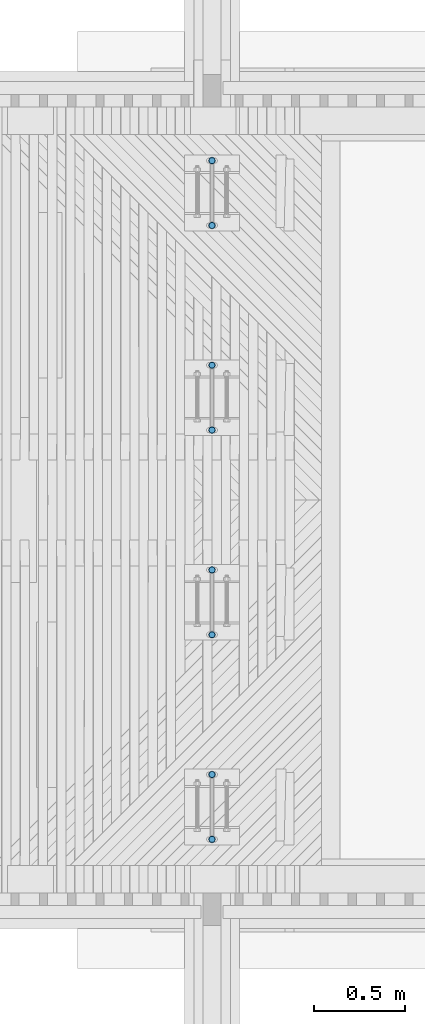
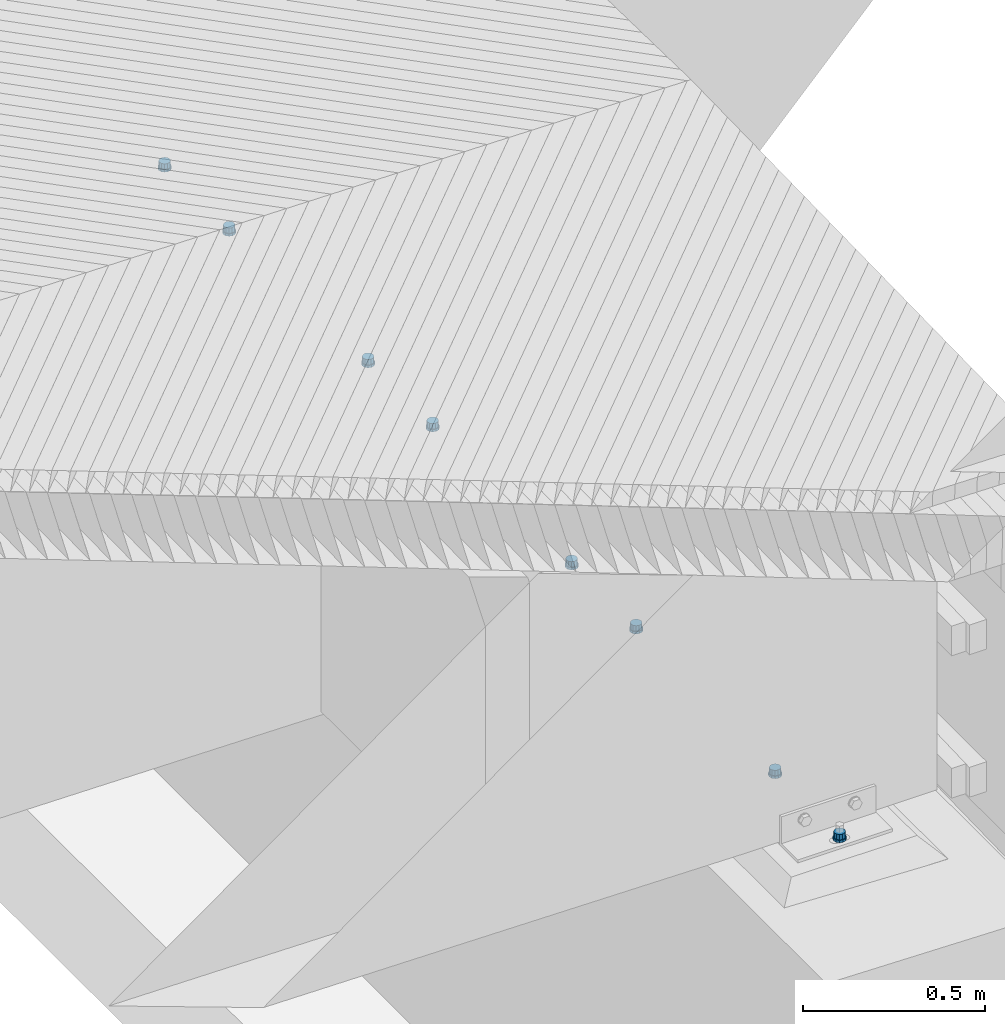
# One storey, part 15 of 53: 16 columns.
"""IFC2X3 building model written with IfcOpenShell, lengths in millimetres."""

import ifcopenshell
import ifcopenshell.guid

model = None  # the IFC model being written
_history = None  # IfcOwnerHistory: only IFC2X3 demands one
_inside = {}  # id of a spatial element -> (the spatial element, [elements in it])
_under = {}  # id of a project, library or spatial element -> (it, [spatial elements below it])
_declared = {}  # id of a project -> (the project, [libraries it declares])
_typed = {}  # id of a type object -> (the type object, [elements of that type])
_made_of = {}  # id of a material, layer set ... -> (it, [elements and type objects made of it])


def new_model(schema):
    """Start an empty IFC model of exactly this schema.

    Asked for "IFC4X3", IfcOpenShell would pick the latest addendum, in which some entities
    have other attributes; the version numbers below select the first issue.
    IFC2X3 requires an IfcOwnerHistory on every rooted entity: one is made here for all.
    """
    global model, _history
    if schema == "IFC4X3":
        model = ifcopenshell.file(schema_version=(4, 3, 0, 0))
    else:
        model = ifcopenshell.file(schema=schema)
    _inside.clear()
    _under.clear()
    _declared.clear()
    _typed.clear()
    _made_of.clear()
    _history = None
    if model.schema == "IFC2X3":
        org = make("IfcOrganization", Name="unknown")
        user = make(
            "IfcPersonAndOrganization",
            ThePerson=make("IfcPerson", FamilyName="unknown"),
            TheOrganization=org,
        )
        app = make(
            "IfcApplication",
            ApplicationDeveloper=org,
            Version="unknown",
            ApplicationFullName="unknown",
            ApplicationIdentifier="unknown",
        )
        _history = make(
            "IfcOwnerHistory",
            OwningUser=user,
            OwningApplication=app,
            ChangeAction="ADDED",
            CreationDate=0,
        )
    return model


def make(cls, **values):
    """One entity of the class cls with the attributes given. An attribute that is None is left unset."""
    return model.create_entity(
        cls, **{name: value for name, value in values.items() if value is not None}
    )


def rooted(cls, **values):
    """An entity with a GlobalId (a new one), such as an element, a storey or a relation."""
    return make(cls, GlobalId=ifcopenshell.guid.new(), OwnerHistory=_history, **values)


def si_unit(unit_type, name, prefix=None):
    """IfcSIUnit, for example si_unit("LENGTHUNIT", "METRE", prefix="MILLI")."""
    return make("IfcSIUnit", UnitType=unit_type, Prefix=prefix, Name=name)


def assignment(units):
    """IfcUnitAssignment: the units of a project."""
    return None if units is None else make("IfcUnitAssignment", Units=units)


def point(xyz):
    """IfcCartesianPoint."""
    return None if xyz is None else make("IfcCartesianPoint", Coordinates=xyz)


def direction(xyz):
    """IfcDirection."""
    return None if xyz is None else make("IfcDirection", DirectionRatios=xyz)


def frame(location, z_axis=None, x_axis=None):
    """IfcAxis2Placement3D, a coordinate frame: its origin and axes. An axis left out is left unset."""
    return make(
        "IfcAxis2Placement3D",
        Location=point(location),
        Axis=direction(z_axis),
        RefDirection=direction(x_axis),
    )


def origin_with_axes():
    """The frame at (0, 0, 0) with the z axis (0, 0, 1) and the x axis (1, 0, 0) written out."""
    return frame((0.0, 0.0, 0.0), z_axis=(0.0, 0.0, 1.0), x_axis=(1.0, 0.0, 0.0))


def place(relative_to, where):
    """IfcLocalPlacement: puts the frame where relative to a parent placement (None: the world)."""
    return make(
        "IfcLocalPlacement", PlacementRelTo=relative_to, RelativePlacement=where
    )


def context(
    kind, dimensions, precision=None, world=None, true_north=None, identifier=None
):
    """IfcGeometricRepresentationContext, for example the 3D "Model" context."""
    return make(
        "IfcGeometricRepresentationContext",
        ContextIdentifier=identifier,
        ContextType=kind,
        CoordinateSpaceDimension=dimensions,
        Precision=precision,
        WorldCoordinateSystem=world,
        TrueNorth=true_north,
    )


def subcontext(parent, identifier, kind, view, scale=None):
    """IfcGeometricRepresentationSubContext, for example "Body" below "Model"."""
    return make(
        "IfcGeometricRepresentationSubContext",
        ContextIdentifier=identifier,
        ContextType=kind,
        ParentContext=parent,
        TargetScale=scale,
        TargetView=view,
    )


def project(units=None, contexts=None):
    """IfcProject with its units and contexts."""
    return rooted(
        "IfcProject",
        Name="project",
        RepresentationContexts=contexts,
        UnitsInContext=assignment(units),
    )


def spatial(cls, under=None, at=None, **own):
    """A site, building, storey or space (cls), placed at a placement, below another one or the project."""
    s = rooted(cls, ObjectPlacement=at, **own)
    if under is not None:
        _under.setdefault(under.id(), (under, []))[1].append(s)
    return s


def faces_of(points, faces, orient=None, outer=None):
    """IfcFace entities. A face is a list of loops; a loop is a list of indices into points, from 0.

    orient and outer hold one flag for each loop. By default every Orientation is true, the
    first loop of a face is its IfcFaceOuterBound and the others are IfcFaceBound.
    """
    made = []
    for i, loops in enumerate(faces):
        bounds = []
        for j, loop in enumerate(loops):
            is_outer = j == 0 if outer is None else outer[i][j]
            bounds.append(
                make(
                    "IfcFaceOuterBound" if is_outer else "IfcFaceBound",
                    Bound=make("IfcPolyLoop", Polygon=[points[k] for k in loop]),
                    Orientation=True if orient is None else orient[i][j],
                )
            )
        made.append(make("IfcFace", Bounds=bounds))
    return made


def faceted_brep(points, faces, orient=None, outer=None, voids=None):
    """IfcFacetedBrep: a solid bounded by flat faces; with voids (closed shells), ...WithVoids."""
    shared = [point(p) for p in points]
    hull = make("IfcClosedShell", CfsFaces=faces_of(shared, faces, orient, outer))
    if voids is None:
        return make("IfcFacetedBrep", Outer=hull)
    return make(
        "IfcFacetedBrepWithVoids",
        Outer=hull,
        Voids=[
            make(cls, CfsFaces=faces_of(shared, fs, o, b)) for cls, fs, o, b in voids
        ],
    )


def shape(context_of_items, identifier, shape_type, items):
    """IfcShapeRepresentation: the items that make up one representation, for example the "Body"."""
    return make(
        "IfcShapeRepresentation",
        ContextOfItems=context_of_items,
        RepresentationIdentifier=identifier,
        RepresentationType=shape_type,
        Items=items,
    )


def material(Name=None, Category=None):
    """IfcMaterial."""
    return make("IfcMaterial", Name=Name, Category=Category)


def made_of(thing, what):
    """Note that an element or type object is made of a material, layer set ...; save() writes the relation."""
    if what is not None:
        _made_of.setdefault(what.id(), (what, []))[1].append(thing)
    return thing


def type_object(cls, material=None, **own):
    """A type object (cls), such as IfcWallType, which elements share."""
    return made_of(rooted(cls, **own), material)


def element(
    cls,
    number,
    at=None,
    inside=None,
    cuts=None,
    type_object=None,
    material=None,
    context=None,
    identifier="Body",
    shape_type=None,
    held_by="IfcProductDefinitionShape",
    body=None,
    shapes=None,
    **own,
):
    """One element of the class cls, such as IfcWall. Its Tag is "e" and its number.

    at: its placement. inside: the storey or other place that contains it. cuts: it is an
    opening in that element (IfcRelVoidsElement). A single representation is given by context,
    identifier, shape_type and body (its items); several are given by shapes. held_by: the class
    of the entity that holds the representations. save() writes the other relations.
    """
    e = rooted(cls, Tag="e%d" % number, ObjectPlacement=at, **own)
    if body is not None:
        shapes = [shape(context, identifier, shape_type, body)]
    if shapes is not None:
        e.Representation = make(held_by, Representations=shapes)
    if inside is not None:
        _inside.setdefault(inside.id(), (inside, []))[1].append(e)
    if cuts is not None:
        rooted(
            "IfcRelVoidsElement", RelatingBuildingElement=cuts, RelatedOpeningElement=e
        )
    if type_object is not None:
        _typed.setdefault(type_object.id(), (type_object, []))[1].append(e)
    return made_of(e, material)


def aggregate(whole, parts):
    """IfcRelAggregates: a whole, such as a stair, and the parts it consists of."""
    return rooted("IfcRelAggregates", RelatingObject=whole, RelatedObjects=parts)


def save(model, path):
    """Write the relations noted so far, then the file.

    IfcRelAggregates (storeys below a building ...), IfcRelContainedInSpatialStructure (elements
    in a storey), IfcRelDefinesByType, IfcRelAssociatesMaterial and IfcRelDeclares: one each for
    every whole, place, type object, material and project.
    """
    for whole, parts in _under.values():
        aggregate(whole, parts)
    for where, things in _inside.values():
        rooted(
            "IfcRelContainedInSpatialStructure",
            RelatedElements=things,
            RelatingStructure=where,
        )
    for kind, things in _typed.values():
        rooted("IfcRelDefinesByType", RelatedObjects=things, RelatingType=kind)
    for what, things in _made_of.values():
        rooted("IfcRelAssociatesMaterial", RelatedObjects=things, RelatingMaterial=what)
    for by, libraries in _declared.values():
        rooted("IfcRelDeclares", RelatingContext=by, RelatedDefinitions=libraries)
    model.write(path)


model = new_model("IFC2X3")

# Units and contexts
model_context = context("Model", 3, precision=1e-05, world=origin_with_axes())
body_context = subcontext(model_context, "Body", "Model", "MODEL_VIEW")
ifc_project = project(units=[si_unit("LENGTHUNIT", "METRE", prefix="MILLI"), si_unit("AREAUNIT", "SQUARE_METRE"), si_unit("VOLUMEUNIT", "CUBIC_METRE"), si_unit("MASSUNIT", "GRAM", prefix="KILO"), si_unit("TIMEUNIT", "SECOND"), si_unit("PLANEANGLEUNIT", "RADIAN"), si_unit("SOLIDANGLEUNIT", "STERADIAN"), si_unit("THERMODYNAMICTEMPERATUREUNIT", "DEGREE_CELSIUS"), si_unit("LUMINOUSINTENSITYUNIT", "LUMEN")], contexts=[model_context])

# Site, building, storey
site_placement = place(None, origin_with_axes())
site = spatial("IfcSite", under=ifc_project, at=site_placement, Name="Undefined", CompositionType="ELEMENT")
building_placement = place(site_placement, origin_with_axes())
building = spatial("IfcBuilding", under=site, at=building_placement, Name="Undefined", CompositionType="ELEMENT")
storey_placement = place(building_placement, origin_with_axes())
storey = spatial("IfcBuildingStorey", under=building, at=storey_placement, Name="Undefined", CompositionType="ELEMENT", Elevation=0.0)

# Columns
ifc_material = material(Name="STEEL/Steel_Undefined")
column_type_1 = type_object("IfcColumnType", Name="D38", PredefinedType="NOTDEFINED")
for number, where, z_axis, x_axis, name in (
    (1, (16000.0, 42747.5000000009, 2007.32999999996), (0.0, 1.0, 0.0), (0.0, 0.0, 1.0), "BEAM"),
    (2, (16000.0, 43102.5000000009, 2007.32999999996), (0.0, 1.0, 0.0), (0.0, 0.0, 1.0), "BEAM"),
    (3, (16000.0, 43867.5000000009, 1985.32999999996), (0.0, 1.0, 0.0), (0.0, 0.0, 1.0), "BEAM"),
    (4, (16000.0, 44222.5000000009, 1985.32999999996), (0.0, 1.0, 0.0), (0.0, 0.0, 1.0), "BEAM"),
    (5, (16000.0, 41982.5, 2007.32999999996), (0.0, -1.0, 0.0), (0.0, 0.0, 1.0), "BEAM"),
    (6, (16000.0, 41627.5, 2007.32999999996), (0.0, -1.0, 0.0), (0.0, 0.0, 1.0), "BEAM"),
    (7, (16000.0, 40862.5, 1985.32999999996), (0.0, -1.0, 0.0), (0.0, 0.0, 1.0), "BEAM"),
    (8, (16000.0, 40507.5, 1985.32999999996), (0.0, -1.0, 0.0), (0.0, 0.0, 1.0), "BEAM"),
):
    element("IfcColumn", number, at=place(storey_placement, frame(where, z_axis=z_axis, x_axis=x_axis)), inside=storey, type_object=column_type_1, material=ifc_material, Name=name, ObjectType="D38", context=body_context, shape_type="Brep", body=[
        faceted_brep([(0.0, -19.0, 0.0), (0.0, -16.4544826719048, -9.5), (8.0, -16.4544826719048, -9.5), (8.0, -19.0, 0.0), (0.0, -9.5, -16.4544826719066), (8.0, -9.5, -16.4544826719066), (0.0, 0.0, -19.0), (8.0, 0.0, -19.0), (0.0, 9.5, -16.4544826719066), (8.0, 9.5, -16.4544826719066), (0.0, 16.4544826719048, -9.5), (8.0, 16.4544826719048, -9.5), (0.0, 19.0, 0.0), (8.0, 19.0, 0.0), (0.0, 16.4544826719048, 9.5), (8.0, 16.4544826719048, 9.5), (0.0, 9.5, 16.4544826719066), (8.0, 9.5, 16.4544826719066), (0.0, 0.0, 19.0), (8.0, 0.0, 19.0), (0.0, -9.5, 16.4544826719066), (8.0, -9.5, 16.4544826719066), (0.0, -16.4544826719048, 9.5), (8.0, -16.4544826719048, 9.5)], [[[0, 1, 2, 3]], [[1, 4, 5, 2]], [[4, 6, 7, 5]], [[6, 8, 9, 7]], [[8, 10, 11, 9]], [[10, 12, 13, 11]], [[12, 14, 15, 13]], [[14, 16, 17, 15]], [[16, 18, 19, 17]], [[18, 20, 21, 19]], [[20, 22, 23, 21]], [[22, 0, 3, 23]], [[5, 7, 9, 11, 13, 15, 17, 19, 21, 23, 3, 2]], [[22, 20, 18, 16, 14, 12, 10, 8, 6, 4, 1, 0]]]),
    ])
column_type_2 = type_object("IfcColumnType", Name="D33", PredefinedType="NOTDEFINED")
for number, where, z_axis, x_axis, name in (
    (9, (16000.0, 42747.5000000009, 2015.32999999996), (0.0, 1.0, 0.0), (0.0, 0.0, 1.0), "BEAM"),
    (10, (16000.0, 43102.5000000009, 2015.32999999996), (0.0, 1.0, 0.0), (0.0, 0.0, 1.0), "BEAM"),
    (11, (16000.0, 43867.5000000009, 1993.32999999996), (0.0, 1.0, 0.0), (0.0, 0.0, 1.0), "BEAM"),
    (12, (16000.0, 44222.5000000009, 1993.32999999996), (0.0, 1.0, 0.0), (0.0, 0.0, 1.0), "BEAM"),
    (13, (16000.0, 41982.5, 2015.32999999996), (0.0, -1.0, 0.0), (0.0, 0.0, 1.0), "BEAM"),
    (14, (16000.0, 41627.5, 2015.32999999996), (0.0, -1.0, 0.0), (0.0, 0.0, 1.0), "BEAM"),
    (15, (16000.0, 40862.5, 1993.32999999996), (0.0, -1.0, 0.0), (0.0, 0.0, 1.0), "BEAM"),
    (16, (16000.0, 40507.5, 1993.32999999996), (0.0, -1.0, 0.0), (0.0, 0.0, 1.0), "BEAM"),
):
    element("IfcColumn", number, at=place(storey_placement, frame(where, z_axis=z_axis, x_axis=x_axis)), inside=storey, type_object=column_type_2, material=ifc_material, Name=name, ObjectType="D33", context=body_context, shape_type="Brep", body=[
        faceted_brep([(0.0, -16.5, 0.0), (0.0, -14.2894191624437, -8.25), (18.0, -14.2894191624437, -8.25), (18.0, -16.5, 0.0), (0.0, -8.25, -14.2894191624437), (18.0, -8.25, -14.2894191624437), (0.0, 0.0, -16.5), (18.0, 0.0, -16.5), (0.0, 8.25, -14.2894191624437), (18.0, 8.25, -14.2894191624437), (0.0, 14.2894191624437, -8.25), (18.0, 14.2894191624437, -8.25), (0.0, 16.5, 0.0), (18.0, 16.5, 0.0), (0.0, 14.2894191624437, 8.25), (18.0, 14.2894191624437, 8.25), (0.0, 8.25, 14.2894191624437), (18.0, 8.25, 14.2894191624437), (0.0, 0.0, 16.5), (18.0, 0.0, 16.5), (0.0, -8.25, 14.2894191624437), (18.0, -8.25, 14.2894191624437), (0.0, -14.2894191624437, 8.25), (18.0, -14.2894191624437, 8.25)], [[[0, 1, 2, 3]], [[1, 4, 5, 2]], [[4, 6, 7, 5]], [[6, 8, 9, 7]], [[8, 10, 11, 9]], [[10, 12, 13, 11]], [[12, 14, 15, 13]], [[14, 16, 17, 15]], [[16, 18, 19, 17]], [[18, 20, 21, 19]], [[20, 22, 23, 21]], [[22, 0, 3, 23]], [[5, 7, 9, 11, 13, 15, 17, 19, 21, 23, 3, 2]], [[22, 20, 18, 16, 14, 12, 10, 8, 6, 4, 1, 0]]]),
    ])

save(model, "model.ifc")
